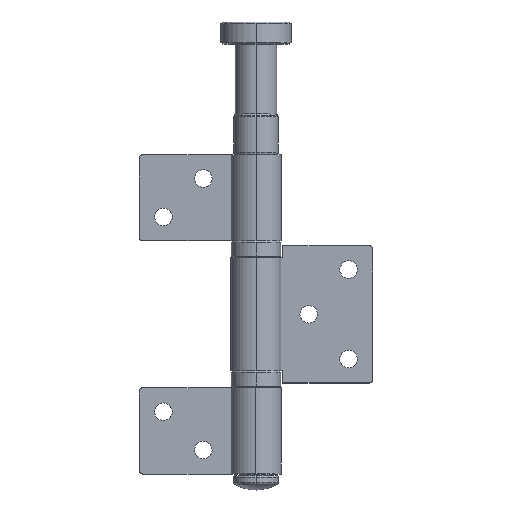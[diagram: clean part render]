
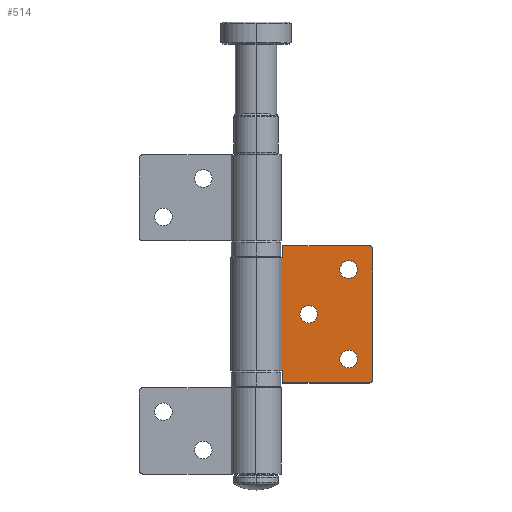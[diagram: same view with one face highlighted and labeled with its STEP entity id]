
A CAD part, top view. The second image highlights one B-rep face of the part: STEP entity #514.
In plain terms, the highlighted planar face has unit normal (0, 0, 1) as drawn and (-1, 0, 0) by its records, which use the part's own axes.
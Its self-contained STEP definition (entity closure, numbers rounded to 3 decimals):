
#55 = CARTESIAN_POINT ( 'NONE',  ( -1.5, 29., 7.5 ) ) ;
#104 = EDGE_LOOP ( 'NONE', ( #642, #603 ) ) ;
#109 = DIRECTION ( 'NONE',  ( 1., 0., 0. ) ) ;
#139 = VERTEX_POINT ( 'NONE', #2521 ) ;
#235 = AXIS2_PLACEMENT_3D ( 'NONE', #2709, #3538, #2092 ) ;
#236 = DIRECTION ( 'NONE',  ( 1., 0., 0. ) ) ;
#242 = CARTESIAN_POINT ( 'NONE',  ( -1.5, 36.5, 43. ) ) ;
#262 = DIRECTION ( 'NONE',  ( 0., 1., 0. ) ) ;
#264 = DIRECTION ( 'NONE',  ( 1., 0., 0. ) ) ;
#323 = EDGE_CURVE ( 'NONE', #2917, #2400, #3457, .T. ) ;
#331 = DIRECTION ( 'NONE',  ( 0., -1., 0. ) ) ;
#376 = CARTESIAN_POINT ( 'NONE',  ( -1.5, 26.25, 7.5 ) ) ;
#396 = VECTOR ( 'NONE', #3127, 1000. ) ;
#447 = LINE ( 'NONE', #1071, #646 ) ;
#465 = CARTESIAN_POINT ( 'NONE',  ( -1.5, 8.4, 3.8 ) ) ;
#475 = VERTEX_POINT ( 'NONE', #1549 ) ;
#497 = CARTESIAN_POINT ( 'NONE',  ( -1.5, 29., 7.5 ) ) ;
#500 = CARTESIAN_POINT ( 'NONE',  ( -1.5, 36.5, 3.8 ) ) ;
#508 = EDGE_CURVE ( 'NONE', #2116, #2777, #521, .T. ) ;
#514 = ADVANCED_FACE ( 'NONE', ( #788, #2226, #2819, #822 ), #2261, .F. ) ;
#521 = CIRCLE ( 'NONE', #1367, 2.75 ) ;
#537 = CARTESIAN_POINT ( 'NONE',  ( -1.5, 7.705, 3.8 ) ) ;
#558 = DIRECTION ( 'NONE',  ( 0., 1., 0. ) ) ;
#561 = EDGE_CURVE ( 'NONE', #1904, #686, #447, .T. ) ;
#566 = CARTESIAN_POINT ( 'NONE',  ( -1.5, 31.75, 35.5 ) ) ;
#586 = DIRECTION ( 'NONE',  ( 1., 0., 0. ) ) ;
#603 = ORIENTED_EDGE ( 'NONE', *, *, #3610, .T. ) ;
#609 = VERTEX_POINT ( 'NONE', #465 ) ;
#611 = LINE ( 'NONE', #1124, #2341 ) ;
#619 = CIRCLE ( 'NONE', #2965, 1. ) ;
#623 = CIRCLE ( 'NONE', #2308, 2.75 ) ;
#642 = ORIENTED_EDGE ( 'NONE', *, *, #508, .T. ) ;
#646 = VECTOR ( 'NONE', #3084, 1000. ) ;
#686 = VERTEX_POINT ( 'NONE', #537 ) ;
#781 = DIRECTION ( 'NONE',  ( 1., 0., 0. ) ) ;
#788 = FACE_BOUND ( 'NONE', #2263, .T. ) ;
#822 = FACE_OUTER_BOUND ( 'NONE', #1818, .T. ) ;
#828 = LINE ( 'NONE', #242, #396 ) ;
#832 = CARTESIAN_POINT ( 'NONE',  ( -1.5, 8.4, 43. ) ) ;
#842 = CIRCLE ( 'NONE', #1383, 2.75 ) ;
#844 = EDGE_CURVE ( 'NONE', #3578, #475, #981, .T. ) ;
#929 = CARTESIAN_POINT ( 'NONE',  ( -1.5, 36.5, 42. ) ) ;
#981 = LINE ( 'NONE', #2653, #3518 ) ;
#1001 = ORIENTED_EDGE ( 'NONE', *, *, #323, .T. ) ;
#1008 = AXIS2_PLACEMENT_3D ( 'NONE', #1313, #236, #2519 ) ;
#1030 = ORIENTED_EDGE ( 'NONE', *, *, #561, .F. ) ;
#1048 = DIRECTION ( 'NONE',  ( 0., 1., 0. ) ) ;
#1071 = CARTESIAN_POINT ( 'NONE',  ( -1.5, 7.705, 43. ) ) ;
#1077 = CARTESIAN_POINT ( 'NONE',  ( -1.5, 35.5, 42. ) ) ;
#1120 = AXIS2_PLACEMENT_3D ( 'NONE', #1077, #2505, #262 ) ;
#1124 = CARTESIAN_POINT ( 'NONE',  ( -1.5, 36.5, 39.2 ) ) ;
#1196 = EDGE_CURVE ( 'NONE', #1904, #1622, #611, .T. ) ;
#1220 = CARTESIAN_POINT ( 'NONE',  ( -1.5, 26.25, 35.5 ) ) ;
#1250 = CARTESIAN_POINT ( 'NONE',  ( -1.5, 7.705, 39.2 ) ) ;
#1256 = DIRECTION ( 'NONE',  ( 0., 0., -1. ) ) ;
#1313 = CARTESIAN_POINT ( 'NONE',  ( -1.5, 36.5, 43. ) ) ;
#1367 = AXIS2_PLACEMENT_3D ( 'NONE', #2973, #109, #2406 ) ;
#1369 = CARTESIAN_POINT ( 'NONE',  ( -1.5, 35.5, 43. ) ) ;
#1381 = CIRCLE ( 'NONE', #235, 2.75 ) ;
#1383 = AXIS2_PLACEMENT_3D ( 'NONE', #497, #264, #1048 ) ;
#1387 = ORIENTED_EDGE ( 'NONE', *, *, #2872, .T. ) ;
#1388 = LINE ( 'NONE', #1445, #1809 ) ;
#1419 = EDGE_CURVE ( 'NONE', #1661, #3578, #2924, .T. ) ;
#1433 = DIRECTION ( 'NONE',  ( 1., 0., 0. ) ) ;
#1440 = CARTESIAN_POINT ( 'NONE',  ( -1.5, 29., 35.5 ) ) ;
#1445 = CARTESIAN_POINT ( 'NONE',  ( -1.5, 8.4, 43. ) ) ;
#1464 = CARTESIAN_POINT ( 'NONE',  ( -1.5, 35.5, 1. ) ) ;
#1471 = EDGE_CURVE ( 'NONE', #1661, #139, #828, .T. ) ;
#1495 = VERTEX_POINT ( 'NONE', #2287 ) ;
#1497 = CARTESIAN_POINT ( 'NONE',  ( -1.5, 19.25, 21.5 ) ) ;
#1549 = CARTESIAN_POINT ( 'NONE',  ( -1.5, 36.5, 1. ) ) ;
#1581 = EDGE_CURVE ( 'NONE', #609, #686, #2743, .T. ) ;
#1598 = VERTEX_POINT ( 'NONE', #1915 ) ;
#1622 = VERTEX_POINT ( 'NONE', #1658 ) ;
#1658 = CARTESIAN_POINT ( 'NONE',  ( -1.5, 8.4, 39.2 ) ) ;
#1661 = VERTEX_POINT ( 'NONE', #1369 ) ;
#1672 = DIRECTION ( 'NONE',  ( 0., -1., 0. ) ) ;
#1682 = ORIENTED_EDGE ( 'NONE', *, *, #3389, .T. ) ;
#1683 = CIRCLE ( 'NONE', #2470, 2.75 ) ;
#1725 = VECTOR ( 'NONE', #1672, 1000. ) ;
#1737 = DIRECTION ( 'NONE',  ( 0., 1., 0. ) ) ;
#1760 = DIRECTION ( 'NONE',  ( 0., 1., 0. ) ) ;
#1809 = VECTOR ( 'NONE', #1994, 1000. ) ;
#1818 = EDGE_LOOP ( 'NONE', ( #3563, #3289, #2108, #1030, #2940, #3550, #2173, #1852, #1961, #1682 ) ) ;
#1852 = ORIENTED_EDGE ( 'NONE', *, *, #1419, .T. ) ;
#1904 = VERTEX_POINT ( 'NONE', #1250 ) ;
#1915 = CARTESIAN_POINT ( 'NONE',  ( -1.5, 8.4, 0. ) ) ;
#1961 = ORIENTED_EDGE ( 'NONE', *, *, #844, .T. ) ;
#1994 = DIRECTION ( 'NONE',  ( 0., 0., 1. ) ) ;
#2005 = LINE ( 'NONE', #832, #2415 ) ;
#2009 = DIRECTION ( 'NONE',  ( 0., 1., 0. ) ) ;
#2092 = DIRECTION ( 'NONE',  ( 0., 1., 0. ) ) ;
#2108 = ORIENTED_EDGE ( 'NONE', *, *, #1581, .T. ) ;
#2114 = EDGE_CURVE ( 'NONE', #1622, #139, #2005, .T. ) ;
#2116 = VERTEX_POINT ( 'NONE', #566 ) ;
#2173 = ORIENTED_EDGE ( 'NONE', *, *, #1471, .F. ) ;
#2226 = FACE_BOUND ( 'NONE', #2479, .T. ) ;
#2261 = PLANE ( 'NONE',  #1008 ) ;
#2263 = EDGE_LOOP ( 'NONE', ( #1387, #2759 ) ) ;
#2287 = CARTESIAN_POINT ( 'NONE',  ( -1.5, 13.75, 21.5 ) ) ;
#2293 = CARTESIAN_POINT ( 'NONE',  ( -1.5, 31.75, 7.5 ) ) ;
#2308 = AXIS2_PLACEMENT_3D ( 'NONE', #3055, #781, #3639 ) ;
#2334 = LINE ( 'NONE', #3462, #3167 ) ;
#2340 = EDGE_CURVE ( 'NONE', #1598, #609, #1388, .T. ) ;
#2341 = VECTOR ( 'NONE', #2009, 1000. ) ;
#2380 = ORIENTED_EDGE ( 'NONE', *, *, #3221, .T. ) ;
#2400 = VERTEX_POINT ( 'NONE', #2293 ) ;
#2406 = DIRECTION ( 'NONE',  ( 0., 1., 0. ) ) ;
#2415 = VECTOR ( 'NONE', #3424, 1000. ) ;
#2470 = AXIS2_PLACEMENT_3D ( 'NONE', #1440, #586, #1737 ) ;
#2479 = EDGE_LOOP ( 'NONE', ( #2380, #1001 ) ) ;
#2505 = DIRECTION ( 'NONE',  ( -1., 0., 0. ) ) ;
#2519 = DIRECTION ( 'NONE',  ( 0., 1., 0. ) ) ;
#2521 = CARTESIAN_POINT ( 'NONE',  ( -1.5, 8.4, 43. ) ) ;
#2604 = DIRECTION ( 'NONE',  ( -1., 0., 0. ) ) ;
#2653 = CARTESIAN_POINT ( 'NONE',  ( -1.5, 36.5, 43. ) ) ;
#2709 = CARTESIAN_POINT ( 'NONE',  ( -1.5, 16.5, 21.5 ) ) ;
#2743 = LINE ( 'NONE', #500, #1725 ) ;
#2759 = ORIENTED_EDGE ( 'NONE', *, *, #3523, .T. ) ;
#2777 = VERTEX_POINT ( 'NONE', #1220 ) ;
#2819 = FACE_BOUND ( 'NONE', #104, .T. ) ;
#2872 = EDGE_CURVE ( 'NONE', #3594, #1495, #1381, .T. ) ;
#2917 = VERTEX_POINT ( 'NONE', #376 ) ;
#2924 = CIRCLE ( 'NONE', #1120, 1. ) ;
#2940 = ORIENTED_EDGE ( 'NONE', *, *, #1196, .T. ) ;
#2965 = AXIS2_PLACEMENT_3D ( 'NONE', #1464, #2604, #1760 ) ;
#2973 = CARTESIAN_POINT ( 'NONE',  ( -1.5, 29., 35.5 ) ) ;
#3055 = CARTESIAN_POINT ( 'NONE',  ( -1.5, 16.5, 21.5 ) ) ;
#3084 = DIRECTION ( 'NONE',  ( 0., 0., -1. ) ) ;
#3127 = DIRECTION ( 'NONE',  ( 0., -1., 0. ) ) ;
#3167 = VECTOR ( 'NONE', #331, 1000. ) ;
#3175 = AXIS2_PLACEMENT_3D ( 'NONE', #55, #1433, #558 ) ;
#3221 = EDGE_CURVE ( 'NONE', #2400, #2917, #842, .T. ) ;
#3289 = ORIENTED_EDGE ( 'NONE', *, *, #2340, .T. ) ;
#3389 = EDGE_CURVE ( 'NONE', #475, #3622, #619, .T. ) ;
#3424 = DIRECTION ( 'NONE',  ( 0., 0., 1. ) ) ;
#3457 = CIRCLE ( 'NONE', #3175, 2.75 ) ;
#3462 = CARTESIAN_POINT ( 'NONE',  ( -1.5, 36.5, 0. ) ) ;
#3491 = CARTESIAN_POINT ( 'NONE',  ( -1.5, 35.5, 0. ) ) ;
#3518 = VECTOR ( 'NONE', #1256, 1000. ) ;
#3523 = EDGE_CURVE ( 'NONE', #1495, #3594, #623, .T. ) ;
#3538 = DIRECTION ( 'NONE',  ( 1., 0., 0. ) ) ;
#3550 = ORIENTED_EDGE ( 'NONE', *, *, #2114, .T. ) ;
#3563 = ORIENTED_EDGE ( 'NONE', *, *, #3699, .T. ) ;
#3578 = VERTEX_POINT ( 'NONE', #929 ) ;
#3594 = VERTEX_POINT ( 'NONE', #1497 ) ;
#3610 = EDGE_CURVE ( 'NONE', #2777, #2116, #1683, .T. ) ;
#3622 = VERTEX_POINT ( 'NONE', #3491 ) ;
#3639 = DIRECTION ( 'NONE',  ( 0., 1., 0. ) ) ;
#3699 = EDGE_CURVE ( 'NONE', #3622, #1598, #2334, .T. ) ;
